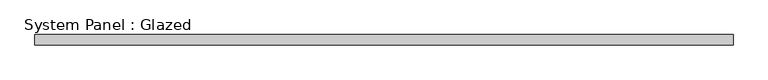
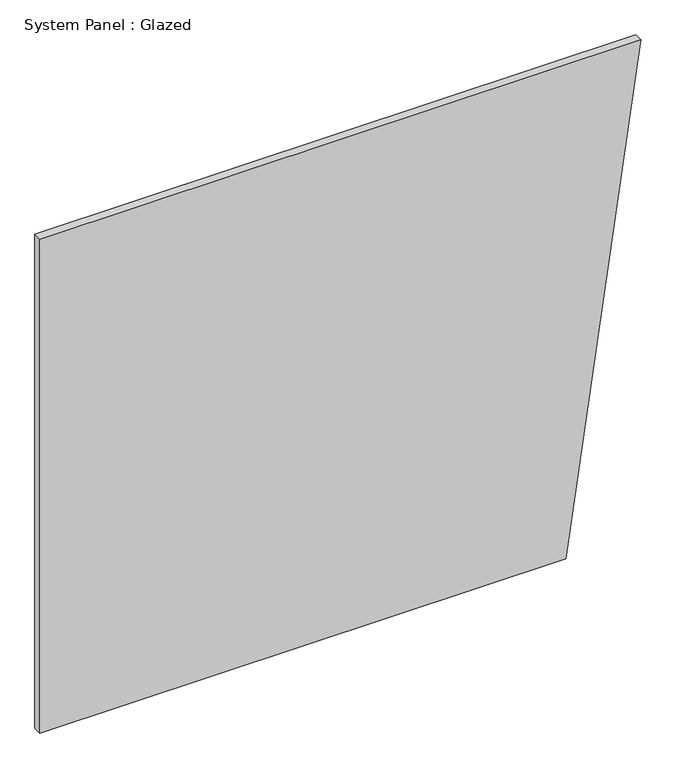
"""IFC4 building model written with IfcOpenShell, lengths in millimetres: plate geometry, System Panel : Glazed."""

import ifcopenshell
import ifcopenshell.guid

model = None  # the IFC model being written
_history = None  # IfcOwnerHistory: only IFC2X3 demands one
_inside = {}  # id of a spatial element -> (the spatial element, [elements in it])
_under = {}  # id of a project, library or spatial element -> (it, [spatial elements below it])
_declared = {}  # id of a project -> (the project, [libraries it declares])
_typed = {}  # id of a type object -> (the type object, [elements of that type])
_made_of = {}  # id of a material, layer set ... -> (it, [elements and type objects made of it])


def new_model(schema):
    """Start an empty IFC model of exactly this schema.

    Asked for "IFC4X3", IfcOpenShell would pick the latest addendum, in which some entities
    have other attributes; the version numbers below select the first issue.
    IFC2X3 requires an IfcOwnerHistory on every rooted entity: one is made here for all.
    """
    global model, _history
    if schema == "IFC4X3":
        model = ifcopenshell.file(schema_version=(4, 3, 0, 0))
    else:
        model = ifcopenshell.file(schema=schema)
    _inside.clear()
    _under.clear()
    _declared.clear()
    _typed.clear()
    _made_of.clear()
    _history = None
    if model.schema == "IFC2X3":
        org = make("IfcOrganization", Name="unknown")
        user = make(
            "IfcPersonAndOrganization",
            ThePerson=make("IfcPerson", FamilyName="unknown"),
            TheOrganization=org,
        )
        app = make(
            "IfcApplication",
            ApplicationDeveloper=org,
            Version="unknown",
            ApplicationFullName="unknown",
            ApplicationIdentifier="unknown",
        )
        _history = make(
            "IfcOwnerHistory",
            OwningUser=user,
            OwningApplication=app,
            ChangeAction="ADDED",
            CreationDate=0,
        )
    return model


def make(cls, **values):
    """One entity of the class cls with the attributes given. An attribute that is None is left unset."""
    return model.create_entity(
        cls, **{name: value for name, value in values.items() if value is not None}
    )


def rooted(cls, **values):
    """An entity with a GlobalId (a new one), such as an element, a storey or a relation."""
    return make(cls, GlobalId=ifcopenshell.guid.new(), OwnerHistory=_history, **values)


def si_unit(unit_type, name, prefix=None):
    """IfcSIUnit, for example si_unit("LENGTHUNIT", "METRE", prefix="MILLI")."""
    return make("IfcSIUnit", UnitType=unit_type, Prefix=prefix, Name=name)


def assignment(units):
    """IfcUnitAssignment: the units of a project."""
    return None if units is None else make("IfcUnitAssignment", Units=units)


def point(xyz):
    """IfcCartesianPoint."""
    return None if xyz is None else make("IfcCartesianPoint", Coordinates=xyz)


def direction(xyz):
    """IfcDirection."""
    return None if xyz is None else make("IfcDirection", DirectionRatios=xyz)


def frame(location, z_axis=None, x_axis=None):
    """IfcAxis2Placement3D, a coordinate frame: its origin and axes. An axis left out is left unset."""
    return make(
        "IfcAxis2Placement3D",
        Location=point(location),
        Axis=direction(z_axis),
        RefDirection=direction(x_axis),
    )


def origin():
    """The frame at (0, 0, 0) with its axes left unset."""
    return frame((0.0, 0.0, 0.0))


def place(relative_to, where):
    """IfcLocalPlacement: puts the frame where relative to a parent placement (None: the world)."""
    return make(
        "IfcLocalPlacement", PlacementRelTo=relative_to, RelativePlacement=where
    )


def context(
    kind, dimensions, precision=None, world=None, true_north=None, identifier=None
):
    """IfcGeometricRepresentationContext, for example the 3D "Model" context."""
    return make(
        "IfcGeometricRepresentationContext",
        ContextIdentifier=identifier,
        ContextType=kind,
        CoordinateSpaceDimension=dimensions,
        Precision=precision,
        WorldCoordinateSystem=world,
        TrueNorth=true_north,
    )


def project(units=None, contexts=None):
    """IfcProject with its units and contexts."""
    return rooted(
        "IfcProject",
        Name="project",
        RepresentationContexts=contexts,
        UnitsInContext=assignment(units),
    )


def spatial(cls, under=None, at=None, **own):
    """A site, building, storey or space (cls), placed at a placement, below another one or the project."""
    s = rooted(cls, ObjectPlacement=at, **own)
    if under is not None:
        _under.setdefault(under.id(), (under, []))[1].append(s)
    return s


def polyline(points):
    """IfcPolyline through the points."""
    return make("IfcPolyline", Points=[point(p) for p in points])


def outline(outer, holes=None, kind="AREA"):
    """IfcArbitraryClosedProfileDef: a profile drawn as a closed curve; with holes, ...WithVoids."""
    if holes is None:
        return make("IfcArbitraryClosedProfileDef", ProfileType=kind, OuterCurve=outer)
    return make(
        "IfcArbitraryProfileDefWithVoids",
        ProfileType=kind,
        OuterCurve=outer,
        InnerCurves=holes,
    )


def extrude(swept, where, along, depth):
    """IfcExtrudedAreaSolid: the profile swept, set in the frame where, extruded along a direction by depth."""
    return make(
        "IfcExtrudedAreaSolid",
        SweptArea=swept,
        Position=where,
        ExtrudedDirection=direction(along),
        Depth=depth,
    )


def shape(context_of_items, identifier, shape_type, items):
    """IfcShapeRepresentation: the items that make up one representation, for example the "Body"."""
    return make(
        "IfcShapeRepresentation",
        ContextOfItems=context_of_items,
        RepresentationIdentifier=identifier,
        RepresentationType=shape_type,
        Items=items,
    )


def source(mapping_origin, context_of_items, identifier, shape_type, items):
    """IfcRepresentationMap: a shape defined once, which mapped items show again and again."""
    return make(
        "IfcRepresentationMap",
        MappingOrigin=mapping_origin,
        MappedRepresentation=shape(context_of_items, identifier, shape_type, items),
    )


def transform(
    local_origin,
    x_axis=None,
    y_axis=None,
    z_axis=None,
    scale=None,
    scale2=None,
    scale3=None,
    uniform=True,
):
    """IfcCartesianTransformationOperator3D, or its non-uniform kind. x_axis, y_axis, z_axis: its Axis1, 2, 3."""
    if uniform:
        return make(
            "IfcCartesianTransformationOperator3D",
            Axis1=direction(x_axis),
            Axis2=direction(y_axis),
            LocalOrigin=point(local_origin),
            Scale=scale,
            Axis3=direction(z_axis),
        )
    return make(
        "IfcCartesianTransformationOperator3DnonUniform",
        Axis1=direction(x_axis),
        Axis2=direction(y_axis),
        LocalOrigin=point(local_origin),
        Scale=scale,
        Axis3=direction(z_axis),
        Scale2=scale2,
        Scale3=scale3,
    )


def mapped(mapping_source, mapping_target):
    """IfcMappedItem: shows the shape of a source again, moved by a transform."""
    return make(
        "IfcMappedItem", MappingSource=mapping_source, MappingTarget=mapping_target
    )


def made_of(thing, what):
    """Note that an element or type object is made of a material, layer set ...; save() writes the relation."""
    if what is not None:
        _made_of.setdefault(what.id(), (what, []))[1].append(thing)
    return thing


def element(
    cls,
    number,
    at=None,
    inside=None,
    cuts=None,
    type_object=None,
    material=None,
    context=None,
    identifier="Body",
    shape_type=None,
    held_by="IfcProductDefinitionShape",
    body=None,
    shapes=None,
    **own,
):
    """One element of the class cls, such as IfcWall. Its Tag is "e" and its number.

    at: its placement. inside: the storey or other place that contains it. cuts: it is an
    opening in that element (IfcRelVoidsElement). A single representation is given by context,
    identifier, shape_type and body (its items); several are given by shapes. held_by: the class
    of the entity that holds the representations. save() writes the other relations.
    """
    e = rooted(cls, Tag="e%d" % number, ObjectPlacement=at, **own)
    if body is not None:
        shapes = [shape(context, identifier, shape_type, body)]
    if shapes is not None:
        e.Representation = make(held_by, Representations=shapes)
    if inside is not None:
        _inside.setdefault(inside.id(), (inside, []))[1].append(e)
    if cuts is not None:
        rooted(
            "IfcRelVoidsElement", RelatingBuildingElement=cuts, RelatedOpeningElement=e
        )
    if type_object is not None:
        _typed.setdefault(type_object.id(), (type_object, []))[1].append(e)
    return made_of(e, material)


def aggregate(whole, parts):
    """IfcRelAggregates: a whole, such as a stair, and the parts it consists of."""
    return rooted("IfcRelAggregates", RelatingObject=whole, RelatedObjects=parts)


def save(model, path):
    """Write the relations noted so far, then the file.

    IfcRelAggregates (storeys below a building ...), IfcRelContainedInSpatialStructure (elements
    in a storey), IfcRelDefinesByType, IfcRelAssociatesMaterial and IfcRelDeclares: one each for
    every whole, place, type object, material and project.
    """
    for whole, parts in _under.values():
        aggregate(whole, parts)
    for where, things in _inside.values():
        rooted(
            "IfcRelContainedInSpatialStructure",
            RelatedElements=things,
            RelatingStructure=where,
        )
    for kind, things in _typed.values():
        rooted("IfcRelDefinesByType", RelatedObjects=things, RelatingType=kind)
    for what, things in _made_of.values():
        rooted("IfcRelAssociatesMaterial", RelatedObjects=things, RelatingMaterial=what)
    for by, libraries in _declared.values():
        rooted("IfcRelDeclares", RelatingContext=by, RelatedDefinitions=libraries)
    model.write(path)


def system_panel_glazed_f9c12b73(model_context):
    return source(origin(), model_context, "Body", "SweptSolid", [
        extrude(outline(polyline([(0.0, -877.1223021), (0.0, 657.8417266), (1524.0, 877.1223021), (1524.0, -877.1223021), (0.0, -877.1223021)])), frame((0.0, 19.05, 0.0), z_axis=(0.0, 1.0, 0.0), x_axis=(0.0, 0.0, 1.0)), (0.0, 0.0, 1.0), 25.4),
    ])


if __name__ == "__main__":
    model = new_model("IFC4")
    model_context = context("Model", 3, world=origin())
    ifc_project = project(units=[si_unit("LENGTHUNIT", "METRE", prefix="MILLI")], contexts=[model_context])
    site = spatial("IfcSite", under=ifc_project)
    building = spatial("IfcBuilding", under=site)
    placement = place(None, origin())
    system_panel_glazed_shape = system_panel_glazed_f9c12b73(model_context)
    element("IfcPlate", 1, ObjectType="System Panel : Glazed", at=placement, inside=building, context=model_context, shape_type="MappedRepresentation", body=[
        mapped(system_panel_glazed_shape, transform((0.0, 0.0, 0.0), x_axis=(1.0, 0.0, 0.0), y_axis=(0.0, 1.0, 0.0), z_axis=(0.0, 0.0, 1.0))),
    ])
    save(model, "model.ifc")
